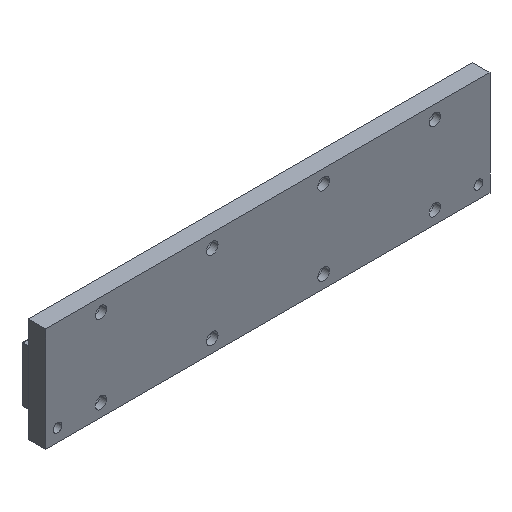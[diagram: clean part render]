
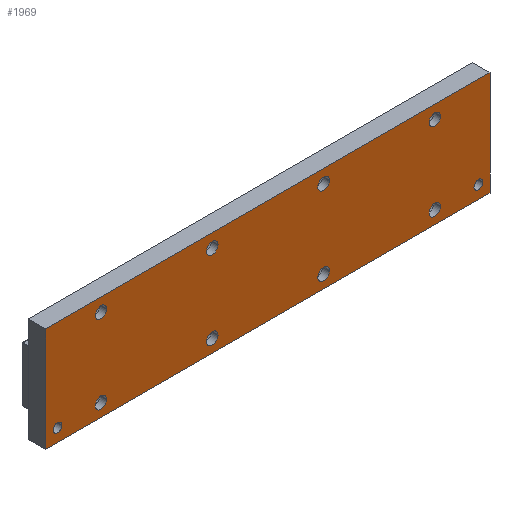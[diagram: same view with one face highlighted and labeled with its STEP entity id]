
A CAD part, isometric view. The second image highlights one B-rep face of the part: STEP entity #1969.
In plain terms, the highlighted planar face has unit normal (0, -1, 0).
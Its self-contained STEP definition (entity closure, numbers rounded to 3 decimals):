
#13=DIRECTION('',(0.,0.,1.));
#14=VECTOR('',#13,60.);
#15=CARTESIAN_POINT('',(127.65,0.,-30.));
#16=LINE('',#15,#14);
#17=DIRECTION('',(-1.,0.,0.));
#18=VECTOR('',#17,255.3);
#19=CARTESIAN_POINT('',(127.65,0.,30.));
#20=LINE('',#19,#18);
#21=DIRECTION('',(-1.,0.,0.));
#22=VECTOR('',#21,255.3);
#23=CARTESIAN_POINT('',(127.65,0.,-30.));
#24=LINE('',#23,#22);
#25=CARTESIAN_POINT('',(-96.,0.,-22.5));
#26=DIRECTION('',(0.,1.,0.));
#27=DIRECTION('',(1.,0.,0.));
#28=AXIS2_PLACEMENT_3D('',#25,#26,#27);
#30=CARTESIAN_POINT('',(-96.,0.,-22.5));
#31=DIRECTION('',(0.,1.,0.));
#32=DIRECTION('',(-1.,0.,0.));
#33=AXIS2_PLACEMENT_3D('',#30,#31,#32);
#35=CARTESIAN_POINT('',(-32.,0.,-22.5));
#36=DIRECTION('',(0.,1.,0.));
#37=DIRECTION('',(1.,0.,0.));
#38=AXIS2_PLACEMENT_3D('',#35,#36,#37);
#40=CARTESIAN_POINT('',(-32.,0.,-22.5));
#41=DIRECTION('',(0.,1.,0.));
#42=DIRECTION('',(-1.,0.,0.));
#43=AXIS2_PLACEMENT_3D('',#40,#41,#42);
#45=CARTESIAN_POINT('',(32.,0.,-22.5));
#46=DIRECTION('',(0.,1.,0.));
#47=DIRECTION('',(1.,0.,0.));
#48=AXIS2_PLACEMENT_3D('',#45,#46,#47);
#50=CARTESIAN_POINT('',(32.,0.,-22.5));
#51=DIRECTION('',(0.,1.,0.));
#52=DIRECTION('',(-1.,0.,0.));
#53=AXIS2_PLACEMENT_3D('',#50,#51,#52);
#55=CARTESIAN_POINT('',(96.,0.,-22.5));
#56=DIRECTION('',(0.,1.,0.));
#57=DIRECTION('',(1.,0.,0.));
#58=AXIS2_PLACEMENT_3D('',#55,#56,#57);
#60=CARTESIAN_POINT('',(96.,0.,-22.5));
#61=DIRECTION('',(0.,1.,0.));
#62=DIRECTION('',(-1.,0.,0.));
#63=AXIS2_PLACEMENT_3D('',#60,#61,#62);
#65=CARTESIAN_POINT('',(-96.,0.,22.5));
#66=DIRECTION('',(0.,1.,0.));
#67=DIRECTION('',(1.,0.,0.));
#68=AXIS2_PLACEMENT_3D('',#65,#66,#67);
#70=CARTESIAN_POINT('',(-96.,0.,22.5));
#71=DIRECTION('',(0.,1.,0.));
#72=DIRECTION('',(-1.,0.,0.));
#73=AXIS2_PLACEMENT_3D('',#70,#71,#72);
#75=CARTESIAN_POINT('',(-32.,0.,22.5));
#76=DIRECTION('',(0.,1.,0.));
#77=DIRECTION('',(1.,0.,0.));
#78=AXIS2_PLACEMENT_3D('',#75,#76,#77);
#80=CARTESIAN_POINT('',(-32.,0.,22.5));
#81=DIRECTION('',(0.,1.,0.));
#82=DIRECTION('',(-1.,0.,0.));
#83=AXIS2_PLACEMENT_3D('',#80,#81,#82);
#85=CARTESIAN_POINT('',(32.,0.,22.5));
#86=DIRECTION('',(0.,1.,0.));
#87=DIRECTION('',(1.,0.,0.));
#88=AXIS2_PLACEMENT_3D('',#85,#86,#87);
#90=CARTESIAN_POINT('',(32.,0.,22.5));
#91=DIRECTION('',(0.,1.,0.));
#92=DIRECTION('',(-1.,0.,0.));
#93=AXIS2_PLACEMENT_3D('',#90,#91,#92);
#95=CARTESIAN_POINT('',(96.,0.,22.5));
#96=DIRECTION('',(0.,1.,0.));
#97=DIRECTION('',(1.,0.,0.));
#98=AXIS2_PLACEMENT_3D('',#95,#96,#97);
#100=CARTESIAN_POINT('',(96.,0.,22.5));
#101=DIRECTION('',(0.,1.,0.));
#102=DIRECTION('',(-1.,0.,0.));
#103=AXIS2_PLACEMENT_3D('',#100,#101,#102);
#105=CARTESIAN_POINT('',(-121.,0.,-22.5));
#106=DIRECTION('',(0.,-1.,0.));
#107=DIRECTION('',(1.,0.,0.));
#108=AXIS2_PLACEMENT_3D('',#105,#106,#107);
#110=CARTESIAN_POINT('',(-121.,0.,-22.5));
#111=DIRECTION('',(0.,-1.,0.));
#112=DIRECTION('',(-1.,0.,0.));
#113=AXIS2_PLACEMENT_3D('',#110,#111,#112);
#115=CARTESIAN_POINT('',(121.,0.,-22.5));
#116=DIRECTION('',(0.,-1.,0.));
#117=DIRECTION('',(1.,0.,0.));
#118=AXIS2_PLACEMENT_3D('',#115,#116,#117);
#120=CARTESIAN_POINT('',(121.,0.,-22.5));
#121=DIRECTION('',(0.,-1.,0.));
#122=DIRECTION('',(-1.,0.,0.));
#123=AXIS2_PLACEMENT_3D('',#120,#121,#122);
#525=DIRECTION('',(0.,0.,1.));
#526=VECTOR('',#525,60.);
#527=CARTESIAN_POINT('',(-127.65,0.,-30.));
#528=LINE('',#527,#526);
#1417=CARTESIAN_POINT('',(127.65,0.,30.));
#1419=VERTEX_POINT('',#1417);
#1423=CARTESIAN_POINT('',(127.65,0.,-30.));
#1424=VERTEX_POINT('',#1423);
#1425=CARTESIAN_POINT('',(-127.65,0.,30.));
#1427=VERTEX_POINT('',#1425);
#1431=CARTESIAN_POINT('',(-127.65,0.,-30.));
#1432=VERTEX_POINT('',#1431);
#1693=CARTESIAN_POINT('',(-118.445,0.,-22.5));
#1694=CARTESIAN_POINT('',(-123.555,0.,-22.5));
#1695=VERTEX_POINT('',#1693);
#1696=VERTEX_POINT('',#1694);
#1701=CARTESIAN_POINT('',(123.555,0.,-22.5));
#1702=CARTESIAN_POINT('',(118.445,0.,-22.5));
#1703=VERTEX_POINT('',#1701);
#1704=VERTEX_POINT('',#1702);
#1717=CARTESIAN_POINT('',(-92.7,0.,-22.5));
#1718=CARTESIAN_POINT('',(-99.3,0.,-22.5));
#1719=VERTEX_POINT('',#1717);
#1720=VERTEX_POINT('',#1718);
#1733=CARTESIAN_POINT('',(-28.7,0.,-22.5));
#1734=CARTESIAN_POINT('',(-35.3,0.,-22.5));
#1735=VERTEX_POINT('',#1733);
#1736=VERTEX_POINT('',#1734);
#1749=CARTESIAN_POINT('',(35.3,0.,-22.5));
#1750=CARTESIAN_POINT('',(28.7,0.,-22.5));
#1751=VERTEX_POINT('',#1749);
#1752=VERTEX_POINT('',#1750);
#1765=CARTESIAN_POINT('',(99.3,0.,-22.5));
#1766=CARTESIAN_POINT('',(92.7,0.,-22.5));
#1767=VERTEX_POINT('',#1765);
#1768=VERTEX_POINT('',#1766);
#1781=CARTESIAN_POINT('',(-92.7,0.,22.5));
#1782=CARTESIAN_POINT('',(-99.3,0.,22.5));
#1783=VERTEX_POINT('',#1781);
#1784=VERTEX_POINT('',#1782);
#1797=CARTESIAN_POINT('',(-28.7,0.,22.5));
#1798=CARTESIAN_POINT('',(-35.3,0.,22.5));
#1799=VERTEX_POINT('',#1797);
#1800=VERTEX_POINT('',#1798);
#1813=CARTESIAN_POINT('',(35.3,0.,22.5));
#1814=CARTESIAN_POINT('',(28.7,0.,22.5));
#1815=VERTEX_POINT('',#1813);
#1816=VERTEX_POINT('',#1814);
#1829=CARTESIAN_POINT('',(99.3,0.,22.5));
#1830=CARTESIAN_POINT('',(92.7,0.,22.5));
#1831=VERTEX_POINT('',#1829);
#1832=VERTEX_POINT('',#1830);
#1896=CARTESIAN_POINT('',(127.65,0.,-30.));
#1897=DIRECTION('',(0.,-1.,0.));
#1898=DIRECTION('',(0.,0.,1.));
#1899=AXIS2_PLACEMENT_3D('',#1896,#1897,#1898);
#1900=PLANE('',#1899);
#1901=ORIENTED_EDGE('',*,*,#1876,.F.);
#1903=ORIENTED_EDGE('',*,*,#1902,.T.);
#1905=ORIENTED_EDGE('',*,*,#1904,.T.);
#1906=ORIENTED_EDGE('',*,*,#1887,.F.);
#1907=EDGE_LOOP('',(#1901,#1903,#1905,#1906));
#1908=FACE_OUTER_BOUND('',#1907,.F.);
#1910=ORIENTED_EDGE('',*,*,#1909,.F.);
#1912=ORIENTED_EDGE('',*,*,#1911,.F.);
#1913=EDGE_LOOP('',(#1910,#1912));
#1914=FACE_BOUND('',#1913,.F.);
#1916=ORIENTED_EDGE('',*,*,#1915,.F.);
#1918=ORIENTED_EDGE('',*,*,#1917,.F.);
#1919=EDGE_LOOP('',(#1916,#1918));
#1920=FACE_BOUND('',#1919,.F.);
#1922=ORIENTED_EDGE('',*,*,#1921,.F.);
#1924=ORIENTED_EDGE('',*,*,#1923,.F.);
#1925=EDGE_LOOP('',(#1922,#1924));
#1926=FACE_BOUND('',#1925,.F.);
#1928=ORIENTED_EDGE('',*,*,#1927,.F.);
#1930=ORIENTED_EDGE('',*,*,#1929,.F.);
#1931=EDGE_LOOP('',(#1928,#1930));
#1932=FACE_BOUND('',#1931,.F.);
#1934=ORIENTED_EDGE('',*,*,#1933,.F.);
#1936=ORIENTED_EDGE('',*,*,#1935,.F.);
#1937=EDGE_LOOP('',(#1934,#1936));
#1938=FACE_BOUND('',#1937,.F.);
#1940=ORIENTED_EDGE('',*,*,#1939,.F.);
#1942=ORIENTED_EDGE('',*,*,#1941,.F.);
#1943=EDGE_LOOP('',(#1940,#1942));
#1944=FACE_BOUND('',#1943,.F.);
#1946=ORIENTED_EDGE('',*,*,#1945,.F.);
#1948=ORIENTED_EDGE('',*,*,#1947,.F.);
#1949=EDGE_LOOP('',(#1946,#1948));
#1950=FACE_BOUND('',#1949,.F.);
#1952=ORIENTED_EDGE('',*,*,#1951,.F.);
#1954=ORIENTED_EDGE('',*,*,#1953,.F.);
#1955=EDGE_LOOP('',(#1952,#1954));
#1956=FACE_BOUND('',#1955,.F.);
#1958=ORIENTED_EDGE('',*,*,#1957,.T.);
#1960=ORIENTED_EDGE('',*,*,#1959,.T.);
#1961=EDGE_LOOP('',(#1958,#1960));
#1962=FACE_BOUND('',#1961,.F.);
#1964=ORIENTED_EDGE('',*,*,#1963,.T.);
#1966=ORIENTED_EDGE('',*,*,#1965,.T.);
#1967=EDGE_LOOP('',(#1964,#1966));
#1968=FACE_BOUND('',#1967,.F.);
#1969=ADVANCED_FACE('',(#1908,#1914,#1920,#1926,#1932,#1938,#1944,#1950,#1956,
#1962,#1968),#1900,.T.);
#29=CIRCLE('',#28,3.3);
#34=CIRCLE('',#33,3.3);
#39=CIRCLE('',#38,3.3);
#44=CIRCLE('',#43,3.3);
#49=CIRCLE('',#48,3.3);
#54=CIRCLE('',#53,3.3);
#59=CIRCLE('',#58,3.3);
#64=CIRCLE('',#63,3.3);
#69=CIRCLE('',#68,3.3);
#74=CIRCLE('',#73,3.3);
#79=CIRCLE('',#78,3.3);
#84=CIRCLE('',#83,3.3);
#89=CIRCLE('',#88,3.3);
#94=CIRCLE('',#93,3.3);
#99=CIRCLE('',#98,3.3);
#104=CIRCLE('',#103,3.3);
#109=CIRCLE('',#108,2.555);
#114=CIRCLE('',#113,2.555);
#119=CIRCLE('',#118,2.555);
#124=CIRCLE('',#123,2.555);
#1876=EDGE_CURVE('',#1424,#1419,#16,.T.);
#1887=EDGE_CURVE('',#1419,#1427,#20,.T.);
#1902=EDGE_CURVE('',#1424,#1432,#24,.T.);
#1904=EDGE_CURVE('',#1432,#1427,#528,.T.);
#1909=EDGE_CURVE('',#1719,#1720,#29,.T.);
#1911=EDGE_CURVE('',#1720,#1719,#34,.T.);
#1915=EDGE_CURVE('',#1735,#1736,#39,.T.);
#1917=EDGE_CURVE('',#1736,#1735,#44,.T.);
#1921=EDGE_CURVE('',#1751,#1752,#49,.T.);
#1923=EDGE_CURVE('',#1752,#1751,#54,.T.);
#1927=EDGE_CURVE('',#1767,#1768,#59,.T.);
#1929=EDGE_CURVE('',#1768,#1767,#64,.T.);
#1933=EDGE_CURVE('',#1783,#1784,#69,.T.);
#1935=EDGE_CURVE('',#1784,#1783,#74,.T.);
#1939=EDGE_CURVE('',#1799,#1800,#79,.T.);
#1941=EDGE_CURVE('',#1800,#1799,#84,.T.);
#1945=EDGE_CURVE('',#1815,#1816,#89,.T.);
#1947=EDGE_CURVE('',#1816,#1815,#94,.T.);
#1951=EDGE_CURVE('',#1831,#1832,#99,.T.);
#1953=EDGE_CURVE('',#1832,#1831,#104,.T.);
#1957=EDGE_CURVE('',#1695,#1696,#109,.T.);
#1959=EDGE_CURVE('',#1696,#1695,#114,.T.);
#1963=EDGE_CURVE('',#1703,#1704,#119,.T.);
#1965=EDGE_CURVE('',#1704,#1703,#124,.T.);
